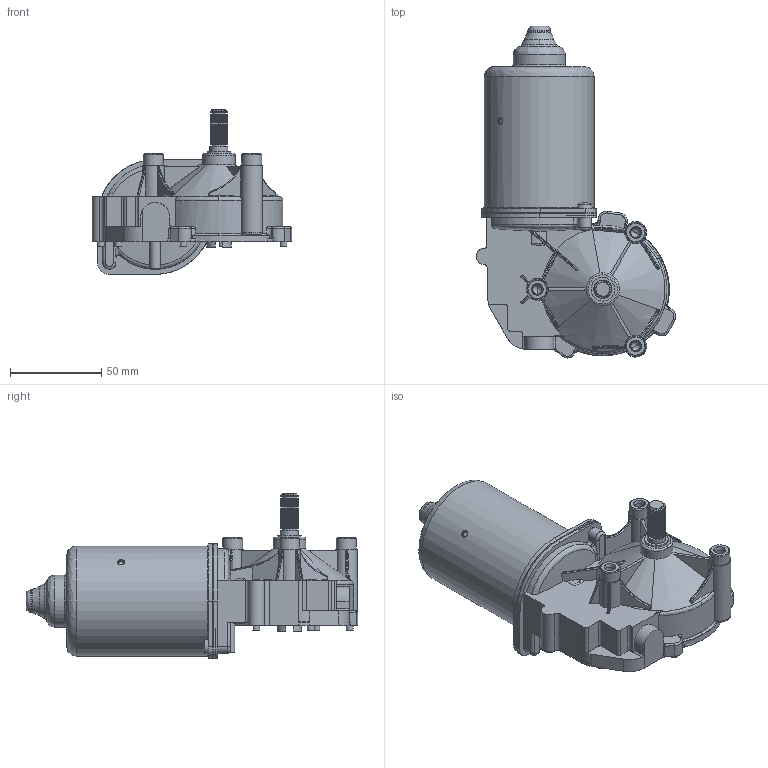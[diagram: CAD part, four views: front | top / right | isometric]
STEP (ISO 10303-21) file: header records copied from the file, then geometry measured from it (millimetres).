
FILE_DESCRIPTION (( 'STEP AP214' ), '1' );
FILE_NAME ('404938.step', '2018-06-28T08:35:49', ( '' ), ( '' ), 'SwSTEP 2.0', 'SolidWorks 2010', '' );
FILE_SCHEMA (( 'AUTOMOTIVE_DESIGN' ));
Length unit declared in the file: millimetre
Products named in the file (3): Motor-DCK35-Axle-Left-KGK; Shaft-W321-KGK; 404938
Assembly tree (2 placements, depth 2):
  404938
    Shaft-W321-KGK
    Motor-DCK35-Axle-Left-KGK
Bounding box: 109.5 x 182.25 x 90.5 mm (x, y, z)
Volume: 237014.3 mm3; surface area: 78885.8 mm2
Topology: 2 solids, 7 shells, 769 faces, 2215 edges, 1493 vertices
Faces by surface type: plane 329, cylinder 214, bspline 174, cone 52
Full cylindrical faces by diameter (mm): 2.5 x2, 3.4 x2, 3.5 x4, 3.6 x2, 3.8 x4, 3.9 x2, 4 x2, 4.2 x6, 4.4 x3, 4.8 x2, 5.3 x3, 6 x1, 8 x3, 10 x2, 10.3 x1, 11 x3, 12 x3, 12.4 x1, 13 x1, 14 x1, 18 x2, 24.15 x1, 24.4 x1, 28.55 x1, 56 x2, 60.4 x1
Entity records: 42078 total; most frequent: CARTESIAN_POINT 24966, ORIENTED_EDGE 4110, DIRECTION 2400, EDGE_CURVE 2055, VERTEX_POINT 1461, B_SPLINE_CURVE_WITH_KNOTS 1078, EDGE_LOOP 938, FACE_OUTER_BOUND 848
